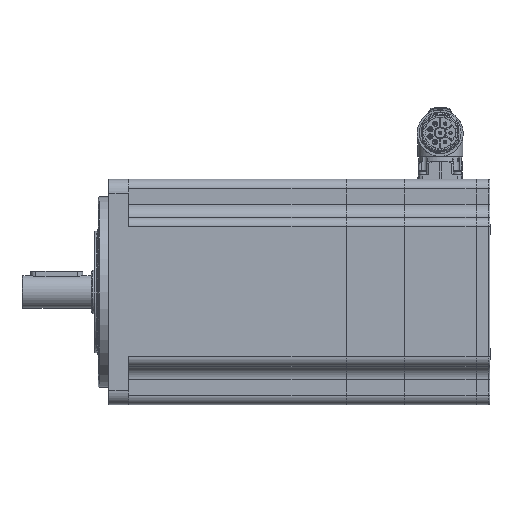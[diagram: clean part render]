
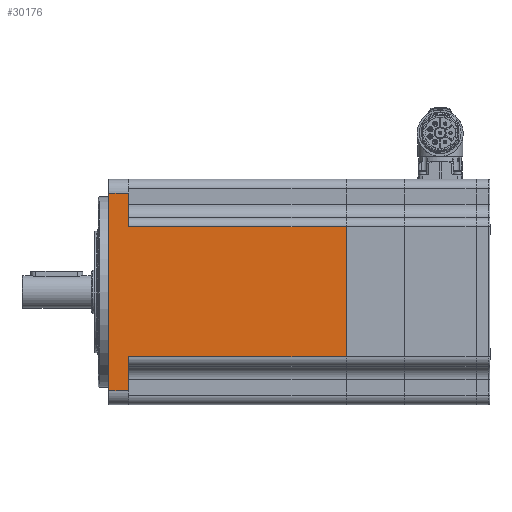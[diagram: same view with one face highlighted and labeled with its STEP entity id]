
A CAD part, left-side view. The second image highlights one B-rep face of the part: STEP entity #30176.
In plain terms, the highlighted planar face has unit normal (-1, 0, 0) as drawn and (1, 0, 0) by its records, which use the part's own axes.
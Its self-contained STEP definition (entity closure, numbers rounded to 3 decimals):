
#9068=LINE('',#48567,#10670);
#9108=LINE('',#49533,#10710);
#9119=LINE('',#49606,#10721);
#9146=LINE('',#49665,#10748);
#9147=LINE('',#49666,#10749);
#9148=LINE('',#49668,#10750);
#9149=LINE('',#49670,#10751);
#9150=LINE('',#49671,#10752);
#10670=VECTOR('',#36768,1000.);
#10710=VECTOR('',#37238,1000.);
#10721=VECTOR('',#37311,1000.);
#10748=VECTOR('',#37374,1000.);
#10749=VECTOR('',#37375,1000.);
#10750=VECTOR('',#37376,1000.);
#10751=VECTOR('',#37377,1000.);
#10752=VECTOR('',#37378,1000.);
#15955=ORIENTED_EDGE('',*,*,#20048,.F.);
#15956=ORIENTED_EDGE('',*,*,#20356,.T.);
#15957=ORIENTED_EDGE('',*,*,#20291,.F.);
#15958=ORIENTED_EDGE('',*,*,#20357,.T.);
#15959=ORIENTED_EDGE('',*,*,#20358,.F.);
#15960=ORIENTED_EDGE('',*,*,#20359,.T.);
#15961=ORIENTED_EDGE('',*,*,#20323,.F.);
#15962=ORIENTED_EDGE('',*,*,#20360,.T.);
#20048=EDGE_CURVE('',#22774,#22775,#9068,.T.);
#20291=EDGE_CURVE('',#22927,#22928,#9108,.T.);
#20323=EDGE_CURVE('',#22959,#22960,#9119,.T.);
#20356=EDGE_CURVE('',#22774,#22928,#9146,.T.);
#20357=EDGE_CURVE('',#22927,#22973,#9147,.T.);
#20358=EDGE_CURVE('',#22974,#22973,#9148,.T.);
#20359=EDGE_CURVE('',#22974,#22960,#9149,.F.);
#20360=EDGE_CURVE('',#22959,#22775,#9150,.T.);
#22774=VERTEX_POINT('',#48566);
#22775=VERTEX_POINT('',#48568);
#22927=VERTEX_POINT('',#49532);
#22928=VERTEX_POINT('',#49534);
#22959=VERTEX_POINT('',#49607);
#22960=VERTEX_POINT('',#49608);
#22973=VERTEX_POINT('',#49667);
#22974=VERTEX_POINT('',#49669);
#26053=EDGE_LOOP('',(#15955,#15956,#15957,#15958,#15959,#15960,#15961,#15962));
#27987=FACE_BOUND('',#26053,.T.);
#28865=PLANE('',#32489);
#30176=ADVANCED_FACE('',(#27987),#28865,.T.);
#32489=AXIS2_PLACEMENT_3D('',#49664,#37372,#37373);
#36768=DIRECTION('',(0.,0.,-1.));
#37238=DIRECTION('',(0.,0.,-1.));
#37311=DIRECTION('',(0.,0.,-1.));
#37372=DIRECTION('',(1.,0.,0.));
#37373=DIRECTION('',(0.,1.,0.));
#37374=DIRECTION('',(0.,-1.,0.));
#37375=DIRECTION('',(0.,-1.,0.));
#37376=DIRECTION('',(0.,0.,1.));
#37377=DIRECTION('',(0.,-1.,0.));
#37378=DIRECTION('',(0.,1.,0.));
#48566=CARTESIAN_POINT('',(65.,138.2,37.5));
#48567=CARTESIAN_POINT('',(65.,138.2,-65.));
#48568=CARTESIAN_POINT('',(65.,138.2,-37.5));
#49532=CARTESIAN_POINT('',(65.,12.7,57.));
#49533=CARTESIAN_POINT('',(65.,12.7,-65.));
#49534=CARTESIAN_POINT('',(65.,12.7,37.5));
#49606=CARTESIAN_POINT('',(65.,12.7,-65.));
#49607=CARTESIAN_POINT('',(65.,12.7,-37.5));
#49608=CARTESIAN_POINT('',(65.,12.7,-57.));
#49664=CARTESIAN_POINT('',(65.,317.858,-65.));
#49665=CARTESIAN_POINT('',(65.,317.858,37.5));
#49666=CARTESIAN_POINT('',(65.,317.858,57.));
#49667=CARTESIAN_POINT('',(65.,1.2,57.));
#49668=CARTESIAN_POINT('',(65.,1.2,-65.));
#49669=CARTESIAN_POINT('',(65.,1.2,-57.));
#49670=CARTESIAN_POINT('',(65.,317.858,-57.));
#49671=CARTESIAN_POINT('',(65.,317.858,-37.5));
